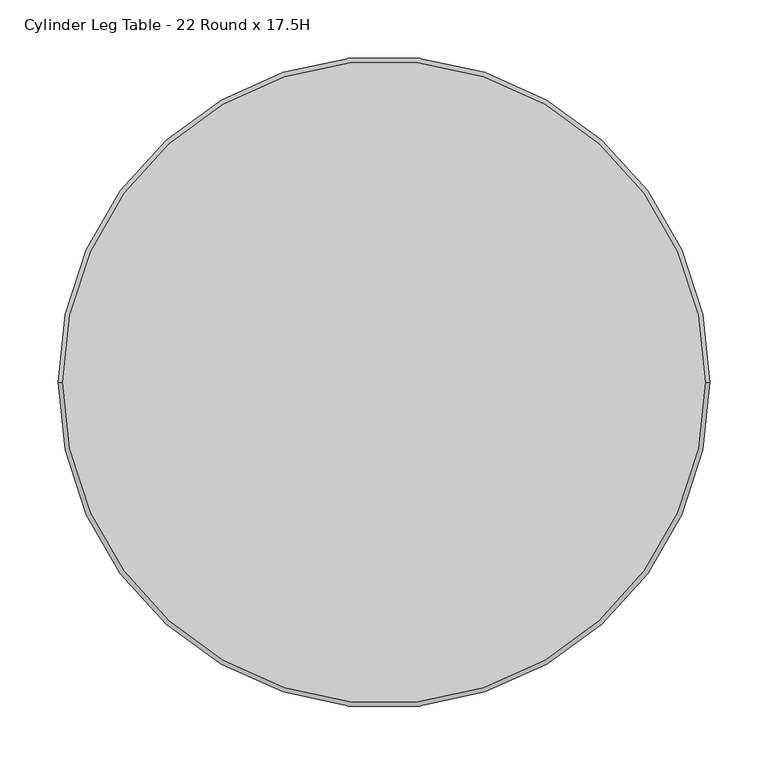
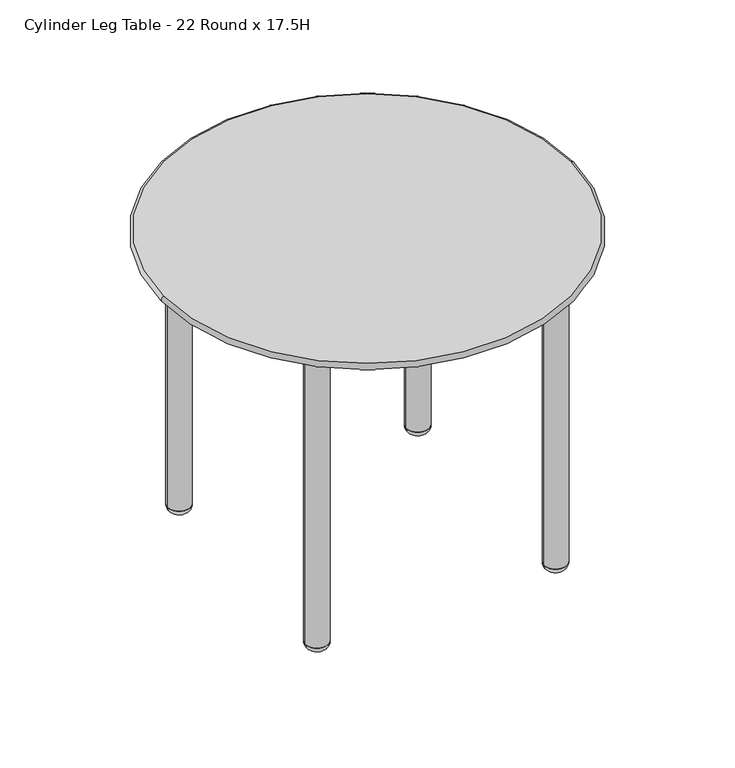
"""IFC4 building model written with IfcOpenShell, lengths in millimetres: furniture geometry, Integra - Coastal Collection - Coastal Metal Tables - Freestanding Table : Cylinder Leg Table - 22 Round x 17.5H."""

from ifc_helpers import new_model, si_unit, point, frame, frame_2d, origin, origin_2d, place, context, project, spatial, circle_curve, ellipse_curve, trimmed, segment, composite_curve, outline, extrude, source, transform, mapped, element, save
from ifc_brep_helpers import plane_surface, revolved_surface, advanced_brep


def cylinder_leg_table_22_round_x_17_5h_ca37e473(model_context):
    return source(origin(), model_context, "Body", "SolidModel", [
        advanced_brep(
        [(-253.984015, 0.0, 431.7999939), (253.984015, 0.0, 431.7999939), (275.4380192, 0.0, 444.5), (-275.4380192, 0.0, 444.5), (277.1187402, 0.0, 436.9501969), (-277.1187402, 0.0, 436.9501969)],
        [
            (0, 1, circle_curve(frame((0.0, 0.0, 431.7999939), z_axis=(0.0, 0.0, -1.0), x_axis=(1.0, 0.0, 0.0)), 253.984015)),
            (1, 0, circle_curve(frame((0.0, 0.0, 431.7999939), z_axis=(0.0, 0.0, -1.0), x_axis=(-1.0, 0.0, 0.0)), 253.984015)),
            (2, 3, circle_curve(frame((0.0, 0.0, 444.5), z_axis=(0.0, 0.0, 1.0), x_axis=(1.0, 0.0, 0.0)), 275.4380192)),
            (3, 2, circle_curve(frame((0.0, 0.0, 444.5), z_axis=(0.0, 0.0, 1.0), x_axis=(-1.0, 0.0, 0.0)), 275.4380192)),
            (2, 4, circle_curve(frame((275.4380192, 0.0, 440.5380192), z_axis=(0.0, 1.0, 0.0), x_axis=(-1.0, 0.0, 0.0)), 3.9619808)),
            (4, 5, circle_curve(frame((0.0, 0.0, 436.9501969), z_axis=(0.0, 0.0, 1.0), x_axis=(1.0, 0.0, 0.0)), 277.1187402)),
            (5, 3, circle_curve(frame((-275.4380192, 0.0, 440.5380192), z_axis=(0.0, 1.0, 0.0), x_axis=(1.0, 0.0, 0.0)), 3.9619808)),
            (4, 1, circle_curve(frame((253.984015, 0.0, 486.3357186), z_axis=(0.0, 1.0, 0.0), x_axis=(-1.0, 0.0, 0.0)), 54.5357246)),
            (0, 5, circle_curve(frame((-253.984015, 0.0, 486.3357186), z_axis=(0.0, 1.0, 0.0), x_axis=(1.0, 0.0, 0.0)), 54.5357246)),
            (5, 4, circle_curve(frame((0.0, 0.0, 436.9501969), z_axis=(0.0, 0.0, 1.0), x_axis=(-1.0, 0.0, 0.0)), 277.1187402)),
        ],
        [
            plane_surface(frame((-25.4, 0.0, 431.7999939), z_axis=(0.0, 0.0, -1.0), x_axis=(0.0, 1.0, 0.0))),
            plane_surface(frame((-25.4, 0.0, 444.5), z_axis=(0.0, 0.0, 1.0), x_axis=(0.0, -1.0, 0.0))),
            revolved_surface(trimmed(ellipse_curve(frame((275.4380192, 0.0, 440.5380192), z_axis=(0.0, -1.0, 0.0), x_axis=(-1.0, 0.0, 0.0)), 3.9619808, 3.9619808), [point((277.1187402, 0.0, 436.9501969))], [point((275.4380192, 0.0, 444.5))], True, "CARTESIAN"), (0.0, 0.0, 444.5), (0.0, 0.0, 1.0)),
            revolved_surface(trimmed(ellipse_curve(frame((253.984015, 0.0, 486.3357186), z_axis=(0.0, -1.0, 0.0), x_axis=(-1.0, 0.0, 0.0)), 54.5357246, 54.5357246), [point((253.984015, 0.0, 431.7999939))], [point((277.1187402, 0.0, 436.9501969))], True, "CARTESIAN"), (0.0, 0.0, 444.5), (0.0, 0.0, 1.0)),
            revolved_surface(trimmed(ellipse_curve(frame((-275.4380192, 0.0, 440.5380192), z_axis=(0.0, 1.0, 0.0), x_axis=(1.0, 0.0, 0.0)), 3.9619808, 3.9619808), [point((-277.1187402, 0.0, 436.9501969))], [point((-275.4380192, 0.0, 444.5))], True, "CARTESIAN"), (0.0, 0.0, 444.5), (0.0, 0.0, 1.0)),
            revolved_surface(trimmed(ellipse_curve(frame((-253.984015, 0.0, 486.3357186), z_axis=(0.0, 1.0, 0.0), x_axis=(1.0, 0.0, 0.0)), 54.5357246, 54.5357246), [point((-253.984015, 0.0, 431.7999939))], [point((-277.1187402, 0.0, 436.9501969))], True, "CARTESIAN"), (0.0, 0.0, 444.5), (0.0, 0.0, 1.0)),
        ],
        [
            (0, [[1, 2]]),
            (1, [[3, 4]]),
            (2, [[-3, 5, 6, 7]]),
            (3, [[-6, 8, -1, 9]]),
            (4, [[-5, -4, -7, 10]]),
            (5, [[-8, -10, -9, -2]]),
        ],
    ),
        extrude(outline(composite_curve([segment(trimmed(circle_curve(origin_2d(), 254.0), [point((-254.0, 0.0))], [point((254.0, 0.0))], False, "CARTESIAN"), True, "CONTINUOUS"), segment(trimmed(circle_curve(origin_2d(), 254.0), [point((254.0, 0.0))], [point((-254.0, 0.0))], False, "CARTESIAN"), True, "CONTINUOUS")], self_intersect=False)), frame((0.0, 0.0, 425.4499939), z_axis=(0.0, 0.0, 1.0), x_axis=(1.0, 0.0, 0.0)), (0.0, 0.0, 1.0), 6.35),
        advanced_brep(
        [(-177.2890041, 161.6446102, 9.5239742), (-146.0002163, 161.6446102, 9.5239742), (-161.6446102, 161.6446102, 9.5239742), (-167.7640041, 161.6446102, -0.0010258), (-155.5252163, 161.6446102, -0.0010258), (-161.6446102, 161.6446102, -0.0010258)],
        [
            (0, 1, circle_curve(frame((-161.6446102, 161.6446102, 9.5239742), z_axis=(0.0, 0.0, 1.0), x_axis=(1.0, 0.0, 0.0)), 15.6443939)),
            (1, 2),
            (2, 0),
            (1, 0, circle_curve(frame((-161.6446102, 161.6446102, 9.5239742), z_axis=(0.0, 0.0, 1.0), x_axis=(1.0, 0.0, 0.0)), 15.6443939)),
            (3, 4, circle_curve(frame((-161.6446102, 161.6446102, -0.0010258), z_axis=(0.0, 0.0, 1.0), x_axis=(1.0, 0.0, 0.0)), 6.1193939)),
            (4, 1, circle_curve(frame((-155.5252163, 161.6446102, 9.5239742), z_axis=(0.0, -1.0, 0.0), x_axis=(1.0, 0.0, 0.0)), 9.525)),
            (0, 3, circle_curve(frame((-167.7640041, 161.6446102, 9.5239742), z_axis=(0.0, -1.0, 0.0), x_axis=(-1.0, 0.0, 0.0)), 9.525)),
            (4, 3, circle_curve(frame((-161.6446102, 161.6446102, -0.0010258), z_axis=(0.0, 0.0, 1.0), x_axis=(1.0, 0.0, 0.0)), 6.1193939)),
            (5, 4),
            (3, 5),
        ],
        [
            plane_surface(frame((-161.6446102, 161.6446102, 9.5239742), z_axis=(0.0, 0.0, 1.0), x_axis=(1.0, 0.0, 0.0))),
            revolved_surface(trimmed(ellipse_curve(frame((-155.5252163, 161.6446102, 9.5239742), z_axis=(0.0, 1.0, 0.0), x_axis=(1.0, 0.0, 0.0)), 9.525, 9.525), [point((-146.0002163, 161.6446102, 9.5239742))], [point((-155.5252163, 161.6446102, -0.0010258))], True, "CARTESIAN"), (-161.6446102, 161.6446102, -0.0010258), (0.0, 0.0, -1.0)),
            plane_surface(frame((-161.6446102, 161.6446102, -0.0010258), z_axis=(0.0, 0.0, -1.0), x_axis=(1.0, 0.0, 0.0))),
        ],
        [
            (0, [[1, 2, 3]]),
            (0, [[4, -3, -2]]),
            (1, [[5, 6, -1, 7]]),
            (1, [[8, -7, -4, -6]]),
            (2, [[9, -5, 10]]),
            (2, [[-10, -8, -9]]),
        ],
    ),
        advanced_brep(
        [(-161.6446102, -161.6446102, 9.5239742), (-146.0002163, -161.6446102, 9.5239742), (-177.2890041, -161.6446102, 9.5239742), (-155.5252163, -161.6446102, -0.0010258), (-167.7640041, -161.6446102, -0.0010258), (-161.6446102, -161.6446102, -0.0010258)],
        [
            (0, 1),
            (1, 2, circle_curve(frame((-161.6446102, -161.6446102, 9.5239742), z_axis=(0.0, 0.0, 1.0), x_axis=(1.0, 0.0, 0.0)), 15.6443939)),
            (2, 0),
            (2, 1, circle_curve(frame((-161.6446102, -161.6446102, 9.5239742), z_axis=(0.0, 0.0, 1.0), x_axis=(1.0, 0.0, 0.0)), 15.6443939)),
            (1, 3, circle_curve(frame((-155.5252163, -161.6446102, 9.5239742), z_axis=(0.0, 1.0, 0.0), x_axis=(1.0, 0.0, 0.0)), 9.525)),
            (3, 4, circle_curve(frame((-161.6446102, -161.6446102, -0.0010258), z_axis=(0.0, 0.0, 1.0), x_axis=(1.0, 0.0, 0.0)), 6.1193939)),
            (4, 2, circle_curve(frame((-167.7640041, -161.6446102, 9.5239742), z_axis=(0.0, 1.0, 0.0), x_axis=(-1.0, 0.0, 0.0)), 9.525)),
            (4, 3, circle_curve(frame((-161.6446102, -161.6446102, -0.0010258), z_axis=(0.0, 0.0, 1.0), x_axis=(1.0, 0.0, 0.0)), 6.1193939)),
            (3, 5),
            (5, 4),
        ],
        [
            plane_surface(frame((-161.6446102, -161.6446102, 9.5239742), z_axis=(0.0, 0.0, 1.0), x_axis=(1.0, 0.0, 0.0))),
            revolved_surface(trimmed(ellipse_curve(frame((-155.5252163, -161.6446102, 9.5239742), z_axis=(0.0, -1.0, 0.0), x_axis=(1.0, 0.0, 0.0)), 9.525, 9.525), [point((-155.5252163, -161.6446102, -0.0010258))], [point((-146.0002163, -161.6446102, 9.5239742))], True, "CARTESIAN"), (-161.6446102, -161.6446102, -0.0010258), (0.0, 0.0, 1.0)),
            plane_surface(frame((-161.6446102, -161.6446102, -0.0010258), z_axis=(0.0, 0.0, -1.0), x_axis=(1.0, 0.0, 0.0))),
        ],
        [
            (0, [[1, 2, 3]]),
            (0, [[-3, 4, -1]]),
            (1, [[-2, 5, 6, 7]]),
            (1, [[-4, -7, 8, -5]]),
            (2, [[-6, 9, 10]]),
            (2, [[-8, -10, -9]]),
        ],
    ),
        advanced_brep(
        [(161.6446102, 161.6446102, 9.5239742), (146.0002163, 161.6446102, 9.5239742), (177.2890041, 161.6446102, 9.5239742), (155.5252163, 161.6446102, -0.0010258), (167.7640041, 161.6446102, -0.0010258), (161.6446102, 161.6446102, -0.0010258)],
        [
            (0, 1),
            (1, 2, circle_curve(frame((161.6446102, 161.6446102, 9.5239742), z_axis=(0.0, 0.0, 1.0), x_axis=(-1.0, 0.0, 0.0)), 15.6443939)),
            (2, 0),
            (2, 1, circle_curve(frame((161.6446102, 161.6446102, 9.5239742), z_axis=(0.0, 0.0, 1.0), x_axis=(-1.0, 0.0, 0.0)), 15.6443939)),
            (1, 3, circle_curve(frame((155.5252163, 161.6446102, 9.5239742), z_axis=(0.0, -1.0, 0.0), x_axis=(-1.0, 0.0, 0.0)), 9.525)),
            (3, 4, circle_curve(frame((161.6446102, 161.6446102, -0.0010258), z_axis=(0.0, 0.0, 1.0), x_axis=(-1.0, 0.0, 0.0)), 6.1193939)),
            (4, 2, circle_curve(frame((167.7640041, 161.6446102, 9.5239742), z_axis=(0.0, -1.0, 0.0), x_axis=(1.0, 0.0, 0.0)), 9.525)),
            (4, 3, circle_curve(frame((161.6446102, 161.6446102, -0.0010258), z_axis=(0.0, 0.0, 1.0), x_axis=(-1.0, 0.0, 0.0)), 6.1193939)),
            (3, 5),
            (5, 4),
        ],
        [
            plane_surface(frame((161.6446102, 161.6446102, 9.5239742), z_axis=(0.0, 0.0, 1.0), x_axis=(-1.0, 0.0, 0.0))),
            revolved_surface(trimmed(ellipse_curve(frame((155.5252163, 161.6446102, 9.5239742), z_axis=(0.0, 1.0, 0.0), x_axis=(-1.0, 0.0, 0.0)), 9.525, 9.525), [point((155.5252163, 161.6446102, -0.0010258))], [point((146.0002163, 161.6446102, 9.5239742))], True, "CARTESIAN"), (161.6446102, 161.6446102, -0.0010258), (0.0, 0.0, 1.0)),
            plane_surface(frame((161.6446102, 161.6446102, -0.0010258), z_axis=(0.0, 0.0, -1.0), x_axis=(-1.0, 0.0, 0.0))),
        ],
        [
            (0, [[1, 2, 3]]),
            (0, [[-3, 4, -1]]),
            (1, [[-2, 5, 6, 7]]),
            (1, [[-4, -7, 8, -5]]),
            (2, [[-6, 9, 10]]),
            (2, [[-8, -10, -9]]),
        ],
    ),
        advanced_brep(
        [(177.2890041, -161.6446102, 9.5239742), (146.0002163, -161.6446102, 9.5239742), (161.6446102, -161.6446102, 9.5239742), (167.7640041, -161.6446102, -0.0010258), (155.5252163, -161.6446102, -0.0010258), (161.6446102, -161.6446102, -0.0010258)],
        [
            (0, 1, circle_curve(frame((161.6446102, -161.6446102, 9.5239742), z_axis=(0.0, 0.0, 1.0), x_axis=(-1.0, 0.0, 0.0)), 15.6443939)),
            (1, 2),
            (2, 0),
            (1, 0, circle_curve(frame((161.6446102, -161.6446102, 9.5239742), z_axis=(0.0, 0.0, 1.0), x_axis=(-1.0, 0.0, 0.0)), 15.6443939)),
            (3, 4, circle_curve(frame((161.6446102, -161.6446102, -0.0010258), z_axis=(0.0, 0.0, 1.0), x_axis=(-1.0, 0.0, 0.0)), 6.1193939)),
            (4, 1, circle_curve(frame((155.5252163, -161.6446102, 9.5239742), z_axis=(0.0, 1.0, 0.0), x_axis=(-1.0, 0.0, 0.0)), 9.525)),
            (0, 3, circle_curve(frame((167.7640041, -161.6446102, 9.5239742), z_axis=(0.0, 1.0, 0.0), x_axis=(1.0, 0.0, 0.0)), 9.525)),
            (4, 3, circle_curve(frame((161.6446102, -161.6446102, -0.0010258), z_axis=(0.0, 0.0, 1.0), x_axis=(-1.0, 0.0, 0.0)), 6.1193939)),
            (5, 4),
            (3, 5),
        ],
        [
            plane_surface(frame((161.6446102, -161.6446102, 9.5239742), z_axis=(0.0, 0.0, 1.0), x_axis=(-1.0, 0.0, 0.0))),
            revolved_surface(trimmed(ellipse_curve(frame((155.5252163, -161.6446102, 9.5239742), z_axis=(0.0, -1.0, 0.0), x_axis=(-1.0, 0.0, 0.0)), 9.525, 9.525), [point((146.0002163, -161.6446102, 9.5239742))], [point((155.5252163, -161.6446102, -0.0010258))], True, "CARTESIAN"), (161.6446102, -161.6446102, -0.0010258), (0.0, 0.0, -1.0)),
            plane_surface(frame((161.6446102, -161.6446102, -0.0010258), z_axis=(0.0, 0.0, -1.0), x_axis=(-1.0, 0.0, 0.0))),
        ],
        [
            (0, [[1, 2, 3]]),
            (0, [[4, -3, -2]]),
            (1, [[5, 6, -1, 7]]),
            (1, [[8, -7, -4, -6]]),
            (2, [[9, -5, 10]]),
            (2, [[-10, -8, -9]]),
        ],
    ),
        extrude(outline(composite_curve([segment(trimmed(circle_curve(frame_2d((161.6446102, 161.6446102)), 15.6443939), [point((146.0002163, 161.6446102))], [point((177.2890041, 161.6446102))], False, "CARTESIAN"), True, "CONTINUOUS"), segment(trimmed(circle_curve(frame_2d((161.6446102, 161.6446102)), 15.6443939), [point((177.2890041, 161.6446102))], [point((146.0002163, 161.6446102))], False, "CARTESIAN"), True, "CONTINUOUS")], self_intersect=False)), frame((0.0, 0.0, 9.5366915), z_axis=(0.0, 0.0, 1.0), x_axis=(1.0, 0.0, 0.0)), (0.0, 0.0, 1.0), 415.9133025),
        extrude(outline(composite_curve([segment(trimmed(circle_curve(frame_2d((161.6446102, -161.6446102)), 15.6443939), [point((146.0002163, -161.6446102))], [point((177.2890041, -161.6446102))], False, "CARTESIAN"), True, "CONTINUOUS"), segment(trimmed(circle_curve(frame_2d((161.6446102, -161.6446102)), 15.6443939), [point((177.2890041, -161.6446102))], [point((146.0002163, -161.6446102))], False, "CARTESIAN"), True, "CONTINUOUS")], self_intersect=False)), frame((0.0, 0.0, 9.5366915), z_axis=(0.0, 0.0, 1.0), x_axis=(1.0, 0.0, 0.0)), (0.0, 0.0, 1.0), 415.9133025),
        extrude(outline(composite_curve([segment(trimmed(circle_curve(frame_2d((-161.6446102, 161.6446102)), 15.6443939), [point((-177.2890041, 161.6446102))], [point((-146.0002163, 161.6446102))], False, "CARTESIAN"), True, "CONTINUOUS"), segment(trimmed(circle_curve(frame_2d((-161.6446102, 161.6446102)), 15.6443939), [point((-146.0002163, 161.6446102))], [point((-177.2890041, 161.6446102))], False, "CARTESIAN"), True, "CONTINUOUS")], self_intersect=False)), frame((0.0, 0.0, 9.5366915), z_axis=(0.0, 0.0, 1.0), x_axis=(1.0, 0.0, 0.0)), (0.0, 0.0, 1.0), 415.9133025),
        extrude(outline(composite_curve([segment(trimmed(circle_curve(frame_2d((-161.6446102, -161.6446102)), 15.6443939), [point((-177.2890041, -161.6446102))], [point((-146.0002163, -161.6446102))], False, "CARTESIAN"), True, "CONTINUOUS"), segment(trimmed(circle_curve(frame_2d((-161.6446102, -161.6446102)), 15.6443939), [point((-146.0002163, -161.6446102))], [point((-177.2890041, -161.6446102))], False, "CARTESIAN"), True, "CONTINUOUS")], self_intersect=False)), frame((0.0, 0.0, 9.5366915), z_axis=(0.0, 0.0, 1.0), x_axis=(1.0, 0.0, 0.0)), (0.0, 0.0, 1.0), 415.9133025),
    ])


if __name__ == "__main__":
    model = new_model("IFC4")
    model_context = context("Model", 3, world=origin())
    ifc_project = project(units=[si_unit("LENGTHUNIT", "METRE", prefix="MILLI")], contexts=[model_context])
    site = spatial("IfcSite", under=ifc_project)
    building = spatial("IfcBuilding", under=site)
    placement = place(None, origin())
    cylinder_leg_table_22_round_x_17_5h_shape = cylinder_leg_table_22_round_x_17_5h_ca37e473(model_context)
    element("IfcFurniture", 1, ObjectType="Integra - Coastal Collection - Coastal Metal Tables - Freestanding Table : Cylinder Leg Table - 22 Round x 17.5H", at=placement, inside=building, context=model_context, shape_type="MappedRepresentation", body=[
        mapped(cylinder_leg_table_22_round_x_17_5h_shape, transform((0.0, 0.0, 0.0), x_axis=(1.0, 0.0, 0.0), y_axis=(0.0, 1.0, 0.0), z_axis=(0.0, 0.0, 1.0))),
    ])
    save(model, "model.ifc")
